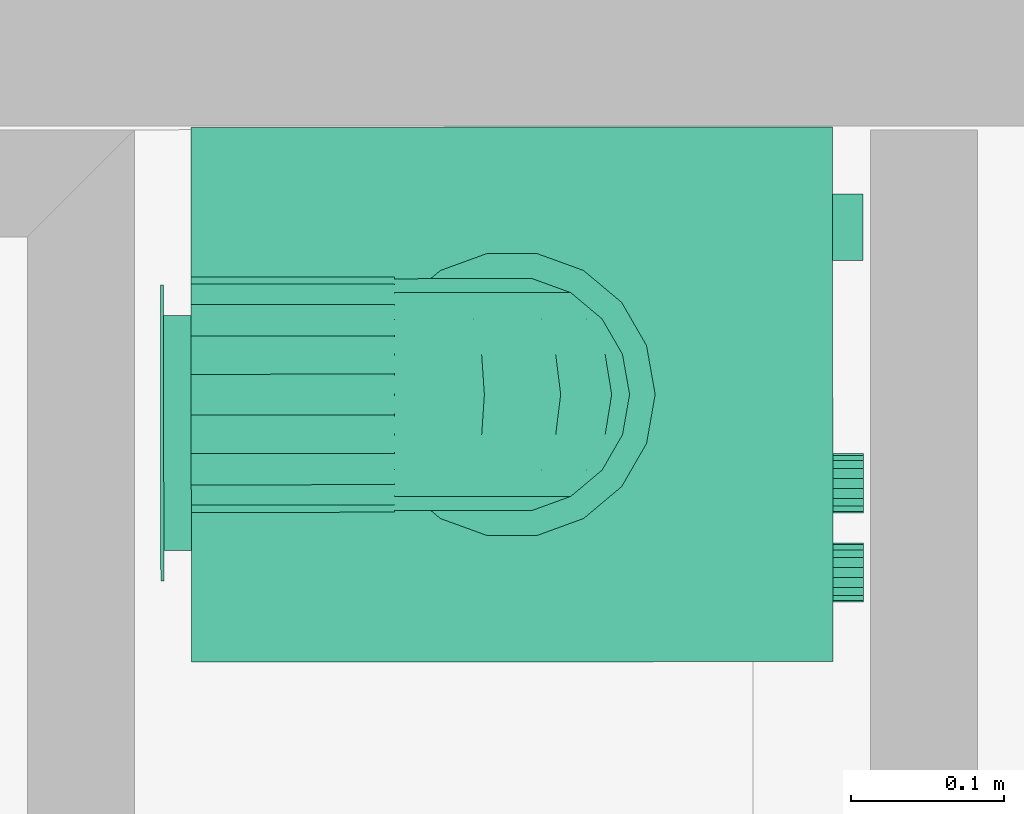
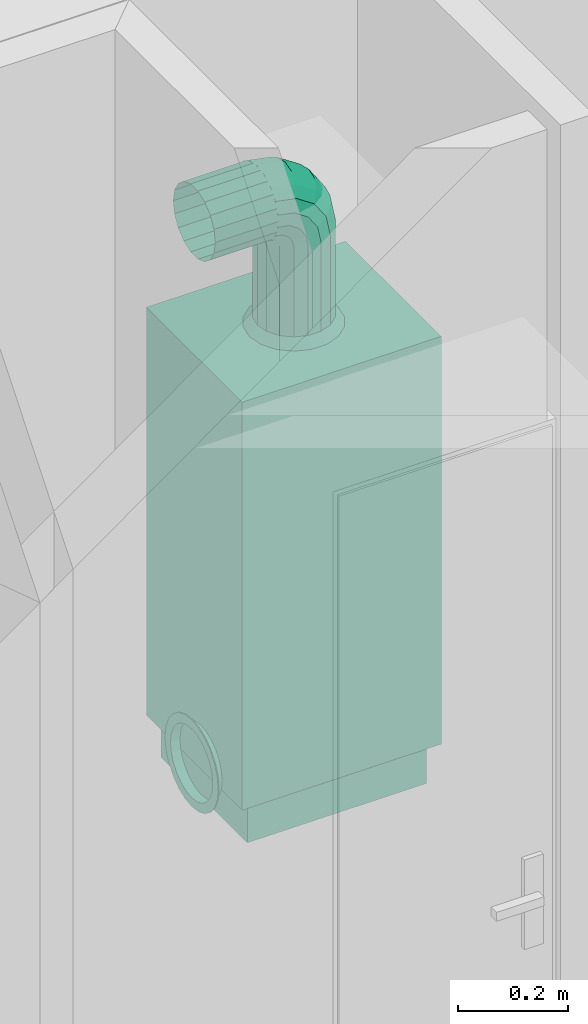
# One storey, part 110 of 164: 1 distribution element.
"""IFC2X3 building model written with IfcOpenShell, lengths in millimetres."""

from ifc_helpers import new_model, entity, si_unit, converted_unit, derived_unit, money_unit, direction, frame, origin_with_axes, place, context, subcontext, project, spatial, open_shell, faceted_brep, surface_model, source, transform, mapped, type_object, element, save


model = new_model("IFC2X3")

# Units and contexts
model_context = context("Model", 3, precision=0.01, world=origin_with_axes(), true_north=direction((0.0, 1.0)))
body_context = subcontext(model_context, "Body", "Model", "MODEL_VIEW")
ifc_project = project(units=[si_unit("LENGTHUNIT", "METRE", prefix="MILLI"), si_unit("AREAUNIT", "SQUARE_METRE"), si_unit("VOLUMEUNIT", "CUBIC_METRE"), converted_unit("PLANEANGLEUNIT", "DEGREE", entity("IfcPlaneAngleMeasure", 0.0174532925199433), si_unit("PLANEANGLEUNIT", "RADIAN"), dimensions=[0, 0, 0, 0, 0, 0, 0]), money_unit("USD"), converted_unit("TIMEUNIT", "Year", entity("IfcTimeMeasure", 31557600.0), si_unit("TIMEUNIT", "SECOND"), dimensions=[0, 0, 1, 0, 0, 0, 0]), si_unit("MASSUNIT", "GRAM", prefix="KILO"), si_unit("THERMODYNAMICTEMPERATUREUNIT", "DEGREE_CELSIUS"), si_unit("LUMINOUSINTENSITYUNIT", "LUMEN"), si_unit("ENERGYUNIT", "JOULE", prefix="MEGA"), derived_unit("THERMALCONDUCTANCEUNIT", [(si_unit("POWERUNIT", "WATT"), 1), (si_unit("LENGTHUNIT", "METRE"), -1), (si_unit("THERMODYNAMICTEMPERATUREUNIT", "KELVIN"), -1)]), derived_unit("SPECIFICHEATCAPACITYUNIT", [(si_unit("ENERGYUNIT", "JOULE"), 1), (si_unit("MASSUNIT", "GRAM", prefix="KILO"), -1), (si_unit("THERMODYNAMICTEMPERATUREUNIT", "KELVIN"), -1)]), derived_unit("MASSDENSITYUNIT", [(si_unit("MASSUNIT", "GRAM", prefix="KILO"), 1), (si_unit("VOLUMEUNIT", "CUBIC_METRE"), -1)])], contexts=[model_context])

# Site, building, storey
site_placement = place(None, origin_with_axes())
site = spatial("IfcSite", under=ifc_project, at=site_placement, Name="Site", CompositionType="ELEMENT")
building_placement = place(site_placement, origin_with_axes())
building = spatial("IfcBuilding", under=site, at=building_placement, Name="Bâtiment", CompositionType="ELEMENT")
storey_placement = place(building_placement, frame((0.0, 0.0, 5750.0), z_axis=(0.0, 0.0, 1.0), x_axis=(1.0, 0.0, 0.0)))
storey = spatial("IfcBuildingStorey", under=building, at=storey_placement, Name="Etage1", CompositionType="ELEMENT", Elevation=5750.0)

# Distribution element
distribution_element_type = type_object("IfcDistributionElementType", Name="Chaudière à gaz 27")
shared_shape = source(origin_with_axes(), body_context, "Body", "SurfaceModel", [
    surface_model("IfcShellBasedSurfaceModel", [(-200.0, 420.0, 34.90909090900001), (-200.0, 438.0, 34.90909090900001), (-180.0709335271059, 438.0, 37.53280228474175), (-180.0709335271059, 420.0, 37.53280228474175), (-219.9290664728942, 420.0, 37.53280228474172), (-219.9290664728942, 438.0, 37.53280228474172), (-161.5, 438.0, 45.22513481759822), (-161.5, 420.0, 45.22513481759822), (-238.5000000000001, 420.0, 45.22513481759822), (-238.5000000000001, 438.0, 45.22513481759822), (-145.5527778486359, 438.0, 57.46186875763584), (-145.5527778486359, 420.0, 57.46186875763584), (-254.4472221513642, 420.0, 57.46186875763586), (-254.4472221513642, 438.0, 57.46186875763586), (-133.3160439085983, 438.0, 73.409090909), (-133.3160439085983, 420.0, 73.409090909), (-266.6839560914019, 420.0, 73.40909090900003), (-266.6839560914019, 438.0, 73.40909090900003), (-125.6237113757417, 438.0, 91.9800244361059), (-125.6237113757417, 420.0, 91.9800244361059), (-274.3762886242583, 420.0, 91.98002443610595), (-274.3762886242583, 438.0, 91.98002443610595), (-123.0, 438.0, 111.909090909), (-123.0, 420.0, 111.909090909), (-277.0, 420.0, 111.909090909), (-277.0, 438.0, 111.909090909), (-125.6237113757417, 438.0, 131.8381573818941), (-125.6237113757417, 420.0, 131.8381573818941), (-274.3762886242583, 420.0, 131.8381573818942), (-274.3762886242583, 438.0, 131.8381573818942), (-133.3160439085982, 438.0, 150.409090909), (-133.3160439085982, 420.0, 150.409090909), (-266.6839560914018, 420.0, 150.4090909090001), (-266.6839560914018, 438.0, 150.4090909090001), (-145.5527778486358, 438.0, 166.3563130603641), (-145.5527778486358, 420.0, 166.3563130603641), (-254.4472221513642, 420.0, 166.3563130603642), (-254.4472221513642, 438.0, 166.3563130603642), (-161.5, 438.0, 178.5930470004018), (-161.5, 420.0, 178.5930470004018), (-238.5, 420.0, 178.5930470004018), (-238.5, 438.0, 178.5930470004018), (-180.0709335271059, 438.0, 186.2853795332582), (-180.0709335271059, 420.0, 186.2853795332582), (-219.929066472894, 420.0, 186.2853795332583), (-219.929066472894, 438.0, 186.2853795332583), (-200.0, 438.0, 188.909090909), (-200.0, 420.0, 188.909090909)], [open_shell([[[0, 1, 2, 3]], [[4, 5, 1, 0]], [[3, 2, 6, 7]], [[8, 9, 5, 4]], [[7, 6, 10, 11]], [[12, 13, 9, 8]], [[11, 10, 14, 15]], [[16, 17, 13, 12]], [[15, 14, 18, 19]], [[20, 21, 17, 16]], [[19, 18, 22, 23]], [[24, 25, 21, 20]], [[23, 22, 26, 27]], [[28, 29, 25, 24]], [[27, 26, 30, 31]], [[32, 33, 29, 28]], [[31, 30, 34, 35]], [[36, 37, 33, 32]], [[35, 34, 38, 39]], [[40, 41, 37, 36]], [[39, 38, 42, 43]], [[44, 45, 41, 40]], [[43, 42, 46, 47]], [[47, 46, 45, 44]]])]),
    faceted_brep([(-200.0, 438.0, 14.909090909), (-200.0, 440.0, 14.909090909), (-174.8945526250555, 440.0, 18.21428575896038), (-174.8945526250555, 438.0, 18.21428575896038), (-225.1054473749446, 438.0, 18.21428575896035), (-225.1054473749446, 440.0, 18.21428575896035), (-248.5000000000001, 440.0, 27.90462674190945), (-268.5893577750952, 440.0, 43.31973313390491), (-284.0044641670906, 440.0, 63.40909090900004), (-293.6948051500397, 440.0, 86.80364353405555), (-297.0000000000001, 440.0, 111.909090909), (-293.6948051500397, 440.0, 137.0145382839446), (-284.0044641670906, 440.0, 160.4090909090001), (-268.5893577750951, 440.0, 180.4984486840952), (-248.5, 440.0, 195.9135550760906), (-225.1054473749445, 440.0, 205.6038960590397), (-199.9999999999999, 440.0, 208.909090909), (-174.8945526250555, 440.0, 205.6038960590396), (-151.5, 440.0, 195.9135550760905), (-131.4106422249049, 440.0, 180.4984486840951), (-115.9955358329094, 440.0, 160.409090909), (-106.3051948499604, 440.0, 137.0145382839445), (-103.0, 440.0, 111.909090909), (-106.3051948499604, 440.0, 86.80364353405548), (-115.9955358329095, 440.0, 63.40909090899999), (-131.4106422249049, 440.0, 43.31973313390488), (-151.5, 440.0, 27.90462674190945), (-200.0, 440.0, 34.90909090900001), (-180.0709335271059, 440.0, 37.53280228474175), (-161.5, 440.0, 45.22513481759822), (-145.5527778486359, 440.0, 57.46186875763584), (-133.3160439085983, 440.0, 73.409090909), (-125.6237113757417, 440.0, 91.9800244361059), (-123.0, 440.0, 111.909090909), (-125.6237113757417, 440.0, 131.8381573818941), (-133.3160439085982, 440.0, 150.409090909), (-145.5527778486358, 440.0, 166.3563130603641), (-161.5, 440.0, 178.5930470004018), (-180.0709335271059, 440.0, 186.2853795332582), (-200.0, 440.0, 188.909090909), (-219.929066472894, 440.0, 186.2853795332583), (-238.5, 440.0, 178.5930470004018), (-254.4472221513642, 440.0, 166.3563130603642), (-266.6839560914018, 440.0, 150.4090909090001), (-274.3762886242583, 440.0, 131.8381573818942), (-277.0, 440.0, 111.909090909), (-274.3762886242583, 440.0, 91.98002443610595), (-266.6839560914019, 440.0, 73.40909090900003), (-254.4472221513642, 440.0, 57.46186875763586), (-238.5000000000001, 440.0, 45.22513481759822), (-219.9290664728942, 440.0, 37.53280228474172), (-151.5, 438.0, 27.90462674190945), (-131.4106422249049, 438.0, 43.31973313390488), (-115.9955358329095, 438.0, 63.40909090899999), (-106.3051948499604, 438.0, 86.80364353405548), (-103.0, 438.0, 111.909090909), (-106.3051948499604, 438.0, 137.0145382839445), (-115.9955358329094, 438.0, 160.409090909), (-131.4106422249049, 438.0, 180.4984486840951), (-151.5, 438.0, 195.9135550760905), (-174.8945526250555, 438.0, 205.6038960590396), (-199.9999999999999, 438.0, 208.909090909), (-225.1054473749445, 438.0, 205.6038960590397), (-248.5, 438.0, 195.9135550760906), (-268.5893577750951, 438.0, 180.4984486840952), (-284.0044641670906, 438.0, 160.4090909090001), (-293.6948051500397, 438.0, 137.0145382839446), (-297.0000000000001, 438.0, 111.909090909), (-293.6948051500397, 438.0, 86.80364353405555), (-284.0044641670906, 438.0, 63.40909090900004), (-268.5893577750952, 438.0, 43.31973313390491), (-248.5000000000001, 438.0, 27.90462674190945), (-200.0, 438.0, 34.90909090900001), (-219.9290664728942, 438.0, 37.53280228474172), (-238.5000000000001, 438.0, 45.22513481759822), (-254.4472221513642, 438.0, 57.46186875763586), (-266.6839560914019, 438.0, 73.40909090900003), (-274.3762886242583, 438.0, 91.98002443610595), (-277.0, 438.0, 111.909090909), (-274.3762886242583, 438.0, 131.8381573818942), (-266.6839560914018, 438.0, 150.4090909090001), (-254.4472221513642, 438.0, 166.3563130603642), (-238.5, 438.0, 178.5930470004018), (-219.929066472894, 438.0, 186.2853795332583), (-200.0, 438.0, 188.909090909), (-180.0709335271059, 438.0, 186.2853795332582), (-161.5, 438.0, 178.5930470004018), (-145.5527778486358, 438.0, 166.3563130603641), (-133.3160439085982, 438.0, 150.409090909), (-125.6237113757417, 438.0, 131.8381573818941), (-123.0, 438.0, 111.909090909), (-125.6237113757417, 438.0, 91.9800244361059), (-133.3160439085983, 438.0, 73.409090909), (-145.5527778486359, 438.0, 57.46186875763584), (-161.5, 438.0, 45.22513481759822), (-180.0709335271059, 438.0, 37.53280228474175)], [[[0, 1, 2, 3]], [[4, 5, 1, 0]], [[1, 5, 6, 7, 8, 9, 10, 11, 12, 13, 14, 15, 16, 17, 18, 19, 20, 21, 22, 23, 24, 25, 26, 2], [27, 28, 29, 30, 31, 32, 33, 34, 35, 36, 37, 38, 39, 40, 41, 42, 43, 44, 45, 46, 47, 48, 49, 50]], [[3, 2, 26, 51]], [[0, 3, 51, 52, 53, 54, 55, 56, 57, 58, 59, 60, 61, 62, 63, 64, 65, 66, 67, 68, 69, 70, 71, 4], [72, 73, 74, 75, 76, 77, 78, 79, 80, 81, 82, 83, 84, 85, 86, 87, 88, 89, 90, 91, 92, 93, 94, 95]], [[71, 6, 5, 4]], [[70, 7, 6, 71]], [[69, 8, 7, 70]], [[68, 9, 8, 69]], [[67, 10, 9, 68]], [[66, 11, 10, 67]], [[65, 12, 11, 66]], [[64, 13, 12, 65]], [[63, 14, 13, 64]], [[62, 15, 14, 63]], [[61, 16, 15, 62]], [[60, 17, 16, 61]], [[59, 18, 17, 60]], [[58, 19, 18, 59]], [[57, 20, 19, 58]], [[56, 21, 20, 57]], [[55, 22, 21, 56]], [[54, 23, 22, 55]], [[53, 24, 23, 54]], [[52, 25, 24, 53]], [[51, 26, 25, 52]], [[95, 28, 27, 72]], [[94, 29, 28, 95]], [[93, 30, 29, 94]], [[92, 31, 30, 93]], [[91, 32, 31, 92]], [[90, 33, 32, 91]], [[89, 34, 33, 90]], [[88, 35, 34, 89]], [[87, 36, 35, 88]], [[86, 37, 36, 87]], [[85, 38, 37, 86]], [[84, 39, 38, 85]], [[83, 40, 39, 84]], [[82, 41, 40, 83]], [[81, 42, 41, 82]], [[80, 43, 42, 81]], [[79, 44, 43, 80]], [[78, 45, 44, 79]], [[77, 46, 45, 78]], [[76, 47, 46, 77]], [[75, 48, 47, 76]], [[74, 49, 48, 75]], [[73, 50, 49, 74]], [[72, 27, 50, 73]]]),
    faceted_brep([(-332.5, 21.0, 0.0), (-332.5, 399.0, 0.0), (-17.5, 399.0, 0.0), (-17.5, 21.0, 0.0), (-332.5, 21.0, 90.9090909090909), (-332.5, 399.0, 90.9090909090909), (-17.5, 399.0, 90.9090909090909), (-17.5, 21.0, 90.9090909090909)], [[[0, 1, 2, 3]], [[0, 4, 5, 1]], [[1, 5, 6, 2]], [[2, 6, 7, 3]], [[3, 7, 4, 0]], [[7, 6, 5, 4]]]),
    faceted_brep([(0.0, 420.0, 90.9090909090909), (-350.0, 420.0, 90.90909090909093), (-349.9999999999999, 420.0, 1000.0), (0.0, 420.0, 1000.0), (0.0, 0.0, 90.9090909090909), (-350.0, 0.0, 90.90909090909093), (-349.9999999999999, 0.0, 818.1818181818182), (-349.9999999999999, 21.0, 818.1818181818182), (-349.9999999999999, 21.0, 1000.0), (0.0, 21.0, 1000.0), (0.0, 21.0, 818.1818181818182), (0.0, 0.0, 818.1818181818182)], [[[0, 1, 2, 3]], [[4, 5, 1, 0]], [[1, 5, 6, 7, 8, 2]], [[3, 2, 8, 9]], [[0, 3, 9, 10, 11, 4]], [[11, 6, 5, 4]], [[10, 7, 6, 11]], [[9, 8, 7, 10]]]),
    faceted_brep([(-350.0, 0.0, 818.1818181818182), (-350.0, 21.0, 818.1818181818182), (0.0, 21.0, 818.1818181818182), (0.0, 0.0, 818.1818181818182), (-350.0, 0.0, 1000.0), (-350.0, 21.0, 1000.0), (0.0, 21.0, 1000.0), (0.0, 0.0, 1000.0)], [[[0, 1, 2, 3]], [[0, 4, 5, 1]], [[1, 5, 6, 2]], [[2, 6, 7, 3]], [[3, 7, 4, 0]], [[7, 6, 5, 4]]]),
    faceted_brep([(-251.6051342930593, 0.0, 902.4405174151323), (-252.7777777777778, 0.0, 909.0909090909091), (-251.6051342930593, 0.0, 915.741300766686), (-248.2286419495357, 0.0, 921.5895570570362), (-243.0555555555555, 0.0, 925.9302919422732), (-236.709825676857, 0.0, 928.2399487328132), (-229.9568409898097, 0.0, 928.2399487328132), (-223.6111111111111, 0.0, 925.9302919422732), (-218.438024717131, 0.0, 921.5895570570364), (-215.0615323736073, 0.0, 915.741300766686), (-213.8888888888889, 0.0, 909.0909090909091), (-215.0615323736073, 0.0, 902.4405174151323), (-218.438024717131, 0.0, 896.5922611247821), (-223.6111111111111, 0.0, 892.2515262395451), (-229.9568409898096, 0.0, 889.9418694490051), (-236.709825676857, 0.0, 889.9418694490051), (-243.0555555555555, 0.0, 892.2515262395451), (-248.2286419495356, 0.0, 896.592261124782), (-251.6051342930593, -19.99999999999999, 902.4405174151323), (-252.7777777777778, -19.99999999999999, 909.0909090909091), (-251.6051342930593, -19.99999999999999, 915.741300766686), (-248.2286419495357, -19.99999999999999, 921.5895570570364), (-243.0555555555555, -19.99999999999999, 925.9302919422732), (-236.709825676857, -19.99999999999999, 928.2399487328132), (-229.9568409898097, -19.99999999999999, 928.2399487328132), (-223.6111111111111, -19.99999999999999, 925.9302919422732), (-218.438024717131, -19.99999999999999, 921.5895570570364), (-215.0615323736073, -19.99999999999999, 915.741300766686), (-213.8888888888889, -19.99999999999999, 909.0909090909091), (-215.0615323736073, -19.99999999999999, 902.4405174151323), (-218.438024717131, -19.99999999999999, 896.5922611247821), (-223.6111111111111, -19.99999999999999, 892.2515262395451), (-229.9568409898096, -19.99999999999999, 889.9418694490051), (-236.709825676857, -19.99999999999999, 889.9418694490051), (-243.0555555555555, -19.99999999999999, 892.2515262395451), (-248.2286419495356, -19.99999999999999, 896.592261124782)], [[[0, 1, 2, 3, 4, 5, 6, 7, 8, 9, 10, 11, 12, 13, 14, 15, 16, 17]], [[0, 18, 19, 1]], [[1, 19, 20, 2]], [[2, 20, 21, 3]], [[3, 21, 22, 4]], [[4, 22, 23, 5]], [[5, 23, 24, 6]], [[6, 24, 25, 7]], [[7, 25, 26, 8]], [[8, 26, 27, 9]], [[9, 27, 28, 10]], [[10, 28, 29, 11]], [[11, 29, 30, 12]], [[12, 30, 31, 13]], [[13, 31, 32, 14]], [[14, 32, 33, 15]], [[15, 33, 34, 16]], [[16, 34, 35, 17]], [[17, 35, 18, 0]], [[18, 35, 34, 33, 32, 31, 30, 29, 28, 27, 26, 25, 24, 23, 22, 21, 20, 19]]]),
    faceted_brep([(-309.9384676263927, 0.0, 902.4405174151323), (-311.1111111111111, 0.0, 909.0909090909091), (-309.9384676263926, 0.0, 915.741300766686), (-306.561975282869, 0.0, 921.5895570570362), (-301.3888888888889, 0.0, 925.9302919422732), (-295.0431590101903, 0.0, 928.2399487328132), (-288.290174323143, 0.0, 928.2399487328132), (-281.9444444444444, 0.0, 925.9302919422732), (-276.7713580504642, 0.0, 921.5895570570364), (-273.3948657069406, 0.0, 915.741300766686), (-272.2222222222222, 0.0, 909.0909090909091), (-273.3948657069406, 0.0, 902.4405174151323), (-276.7713580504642, 0.0, 896.5922611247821), (-281.9444444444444, 0.0, 892.2515262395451), (-288.290174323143, 0.0, 889.9418694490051), (-295.0431590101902, 0.0, 889.9418694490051), (-301.3888888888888, 0.0, 892.2515262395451), (-306.561975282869, 0.0, 896.592261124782), (-309.9384676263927, -19.99999999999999, 902.4405174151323), (-311.1111111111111, -19.99999999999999, 909.0909090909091), (-309.9384676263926, -19.99999999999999, 915.741300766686), (-306.561975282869, -19.99999999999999, 921.5895570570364), (-301.3888888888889, -19.99999999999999, 925.9302919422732), (-295.0431590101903, -19.99999999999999, 928.2399487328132), (-288.290174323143, -19.99999999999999, 928.2399487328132), (-281.9444444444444, -19.99999999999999, 925.9302919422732), (-276.7713580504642, -19.99999999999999, 921.5895570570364), (-273.3948657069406, -19.99999999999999, 915.741300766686), (-272.2222222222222, -19.99999999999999, 909.0909090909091), (-273.3948657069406, -19.99999999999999, 902.4405174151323), (-276.7713580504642, -19.99999999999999, 896.5922611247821), (-281.9444444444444, -19.99999999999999, 892.2515262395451), (-288.290174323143, -19.99999999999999, 889.9418694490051), (-295.0431590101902, -19.99999999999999, 889.9418694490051), (-301.3888888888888, -19.99999999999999, 892.2515262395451), (-306.561975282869, -19.99999999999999, 896.592261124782)], [[[0, 1, 2, 3, 4, 5, 6, 7, 8, 9, 10, 11, 12, 13, 14, 15, 16, 17]], [[0, 18, 19, 1]], [[1, 19, 20, 2]], [[2, 20, 21, 3]], [[3, 21, 22, 4]], [[4, 22, 23, 5]], [[5, 23, 24, 6]], [[6, 24, 25, 7]], [[7, 25, 26, 8]], [[8, 26, 27, 9]], [[9, 27, 28, 10]], [[10, 28, 29, 11]], [[11, 29, 30, 12]], [[12, 30, 31, 13]], [[13, 31, 32, 14]], [[14, 32, 33, 15]], [[15, 33, 34, 16]], [[16, 34, 35, 17]], [[17, 35, 18, 0]], [[18, 35, 34, 33, 32, 31, 30, 29, 28, 27, 26, 25, 24, 23, 22, 21, 20, 19]]]),
    faceted_brep([(-87.5, 0.0, 878.7878787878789), (-87.5, 0.0, 939.3939393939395), (-43.75, 0.0, 939.3939393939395), (-43.75, 0.0, 878.7878787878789), (-87.5, -20.0, 878.7878787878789), (-87.5, -19.99999999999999, 939.3939393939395), (-43.75, -19.99999999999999, 939.3939393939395), (-43.75, -20.0, 878.7878787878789)], [[[0, 1, 2, 3]], [[0, 4, 5, 1]], [[1, 5, 6, 2]], [[2, 6, 7, 3]], [[3, 7, 4, 0]], [[7, 6, 5, 4]]]),
    surface_model("IfcShellBasedSurfaceModel", [(-148.6644489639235, 282.356331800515, 1220.0), (-148.6644489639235, 282.356331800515, 1020.0), (-175.0, 287.0, 1020.0), (-175.0, 287.0, 1220.0), (-125.5053540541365, 268.9854221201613, 1220.0), (-125.5053540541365, 268.9854221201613, 1020.0), (-142.9356115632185, 298.0961831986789, 1000.0), (-175.0, 303.7499999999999, 1000.0), (-201.3355510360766, 282.356331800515, 1020.0), (-201.3355510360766, 282.356331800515, 1220.0), (-108.3160439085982, 248.5, 1220.0), (-108.3160439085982, 248.5, 1020.0), (-114.7386615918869, 281.8166665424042, 1000.0), (-207.0643884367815, 298.0961831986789, 1000.0), (-224.4946459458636, 268.9854221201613, 1020.0), (-224.4946459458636, 268.9854221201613, 1220.0), (-99.16980301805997, 223.3709096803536, 1220.0), (-99.16980301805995, 223.3709096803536, 1020.0), (-93.81011839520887, 256.8749999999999, 1000.0), (-235.2613384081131, 281.8166665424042, 1000.0), (-241.6839560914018, 248.4999999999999, 1020.0), (-241.6839560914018, 248.4999999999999, 1220.0), (-99.16980301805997, 196.6290903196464, 1220.0), (-99.16980301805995, 196.6290903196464, 1020.0), (-82.6742731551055, 226.2795166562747, 1000.0), (-256.1898816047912, 256.8749999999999, 1000.0), (-250.83019698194, 223.3709096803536, 1020.0), (-250.8301969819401, 223.3709096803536, 1220.0), (-108.3160439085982, 171.5, 1220.0), (-108.3160439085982, 171.5, 1020.0), (-82.67427315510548, 193.7204833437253, 1000.0), (-267.3257268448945, 226.2795166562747, 1000.0), (-250.83019698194, 196.6290903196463, 1020.0), (-250.83019698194, 196.6290903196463, 1220.0), (-125.5053540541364, 151.0145778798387, 1220.0), (-125.5053540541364, 151.0145778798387, 1020.0), (-93.81011839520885, 163.125, 1000.0), (-267.3257268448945, 193.7204833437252, 1000.0), (-241.6839560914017, 171.4999999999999, 1020.0), (-241.6839560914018, 171.4999999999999, 1220.0), (-148.6644489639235, 137.643668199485, 1220.0), (-148.6644489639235, 137.643668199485, 1020.0), (-114.7386615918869, 138.1833334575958, 1000.0), (-256.1898816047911, 163.1249999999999, 1000.0), (-224.4946459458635, 151.0145778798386, 1020.0), (-224.4946459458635, 151.0145778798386, 1220.0), (-175.0, 133.0, 1220.0), (-175.0, 133.0, 1020.0), (-142.9356115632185, 121.9038168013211, 1000.0), (-235.261338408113, 138.1833334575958, 1000.0), (-201.3355510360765, 137.643668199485, 1020.0), (-201.3355510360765, 137.643668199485, 1220.0), (-175.0, 116.25, 1000.0), (-207.0643884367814, 121.9038168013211, 1000.0)], [open_shell([[[0, 1, 2, 3]], [[4, 5, 1, 0]], [[1, 6, 7, 2]], [[3, 2, 8, 9]], [[10, 11, 5, 4]], [[5, 12, 6, 1]], [[2, 7, 13, 8]], [[9, 8, 14, 15]], [[16, 17, 11, 10]], [[11, 18, 12, 5]], [[8, 13, 19, 14]], [[15, 14, 20, 21]], [[22, 23, 17, 16]], [[17, 24, 18, 11]], [[14, 19, 25, 20]], [[21, 20, 26, 27]], [[28, 29, 23, 22]], [[23, 30, 24, 17]], [[20, 25, 31, 26]], [[27, 26, 32, 33]], [[34, 35, 29, 28]], [[29, 36, 30, 23]], [[26, 31, 37, 32]], [[33, 32, 38, 39]], [[40, 41, 35, 34]], [[35, 42, 36, 29]], [[32, 37, 43, 38]], [[39, 38, 44, 45]], [[46, 47, 41, 40]], [[41, 48, 42, 35]], [[38, 43, 49, 44]], [[45, 44, 50, 51]], [[51, 50, 47, 46]], [[47, 52, 48, 41]], [[44, 49, 53, 50]], [[50, 53, 52, 47]]])]),
    faceted_brep([(-250.83019698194, 196.6290903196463, 1220.0), (-250.83019698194, 203.5081662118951, 1254.583449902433), (-250.83019698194, 228.2143857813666, 1244.349798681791), (-250.83019698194, 223.3709096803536, 1220.0), (-241.6839560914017, 171.4999999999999, 1220.0), (-241.6839560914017, 180.2919139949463, 1264.199936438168), (-250.83019698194, 223.0981169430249, 1283.901883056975), (-250.83019698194, 242.0074387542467, 1264.992561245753), (-241.6839560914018, 248.4999999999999, 1220.0), (-241.6839560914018, 251.4306379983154, 1234.733312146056), (-224.4946459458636, 268.9854221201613, 1220.0), (-201.3355510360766, 282.356331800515, 1220.0), (-175.0, 287.0, 1220.0), (-148.6644489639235, 282.356331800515, 1220.0), (-125.5053540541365, 268.9854221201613, 1220.0), (-108.3160439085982, 248.5, 1220.0), (-99.16980301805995, 223.3709096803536, 1220.0), (-99.16980301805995, 196.6290903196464, 1220.0), (-108.3160439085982, 171.5, 1220.0), (-125.5053540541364, 151.0145778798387, 1220.0), (-148.6644489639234, 137.643668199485, 1220.0), (-175.0, 132.9999999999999, 1220.0), (-201.3355510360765, 137.643668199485, 1220.0), (-224.4946459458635, 151.0145778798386, 1220.0), (-224.4946459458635, 161.3658517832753, 1272.039368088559), (-241.6839560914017, 205.3291667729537, 1301.670833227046), (-250.83019698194, 252.4165500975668, 1303.491833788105), (-250.83019698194, 262.6502013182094, 1278.785614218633), (-241.6839560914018, 259.7763889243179, 1247.223611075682), (-224.4946459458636, 270.3567002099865, 1226.893880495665), (-201.3355510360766, 282.7098099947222, 1221.777054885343), (-148.6644489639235, 282.7098099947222, 1221.777054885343), (-125.5053540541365, 270.3567002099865, 1226.893880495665), (-108.3160439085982, 251.4306379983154, 1234.733312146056), (-99.16980301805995, 228.2143857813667, 1244.349798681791), (-99.16980301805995, 203.5081662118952, 1254.583449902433), (-108.3160439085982, 180.2919139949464, 1264.199936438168), (-125.5053540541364, 161.3658517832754, 1272.039368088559), (-148.6644489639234, 149.0127419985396, 1277.15619369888), (-175.0, 144.7225519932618, 1278.933248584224), (-201.3355510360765, 149.0127419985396, 1277.15619369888), (-224.4946459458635, 190.8437858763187, 1316.156214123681), (-241.6839560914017, 242.8000635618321, 1326.708086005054), (-250.83019698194, 287.0000000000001, 1310.370909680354), (-250.83019698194, 287.0000000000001, 1283.629090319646), (-241.6839560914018, 272.266687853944, 1255.569362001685), (-224.4946459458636, 274.2617698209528, 1232.738230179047), (-201.3355510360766, 283.7164307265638, 1223.283569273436), (-148.6644489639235, 283.7164307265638, 1223.283569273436), (-125.5053540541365, 274.2617698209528, 1232.738230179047), (-108.3160439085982, 259.7763889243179, 1247.223611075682), (-99.16980301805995, 242.0074387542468, 1264.992561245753), (-99.16980301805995, 223.098116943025, 1283.901883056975), (-108.3160439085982, 205.3291667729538, 1301.670833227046), (-125.5053540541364, 190.8437858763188, 1316.156214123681), (-148.6644489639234, 181.3891249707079, 1325.610875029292), (-175.0, 178.1055556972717, 1328.894444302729), (-201.3355510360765, 181.3891249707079, 1325.610875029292), (-224.4946459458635, 234.9606319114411, 1345.634148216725), (-241.6839560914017, 287.0000000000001, 1335.5), (-241.6839560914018, 287.0, 1258.5), (-224.4946459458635, 287.0000000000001, 1355.985422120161), (-201.3355510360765, 287.0000000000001, 1369.356331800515), (-175.0, 287.0000000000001, 1374.0), (-148.6644489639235, 287.0000000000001, 1369.356331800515), (-125.5053540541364, 287.0000000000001, 1355.985422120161), (-108.3160439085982, 287.0000000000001, 1335.5), (-99.16980301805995, 287.0000000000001, 1310.370909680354), (-99.16980301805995, 287.0000000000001, 1283.629090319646), (-108.3160439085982, 287.0, 1258.5), (-125.5053540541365, 287.0, 1238.014577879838), (-148.6644489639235, 287.0, 1224.643668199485), (-201.3355510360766, 287.0, 1224.643668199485), (-224.4946459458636, 287.0, 1238.014577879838), (-224.4946459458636, 280.1061195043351, 1236.643299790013), (-201.3355510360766, 285.2229451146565, 1224.290190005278), (-148.6644489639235, 285.2229451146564, 1224.290190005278), (-125.5053540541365, 280.1061195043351, 1236.643299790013), (-108.3160439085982, 272.266687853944, 1255.569362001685), (-99.16980301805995, 262.6502013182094, 1278.785614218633), (-99.16980301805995, 252.4165500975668, 1303.491833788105), (-108.3160439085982, 242.8000635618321, 1326.708086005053), (-125.5053540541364, 234.9606319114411, 1345.634148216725), (-148.6644489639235, 229.8438063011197, 1357.98725800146), (-175.0, 228.0667514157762, 1362.277448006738), (-201.3355510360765, 229.8438063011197, 1357.98725800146)], [[[0, 1, 2, 3]], [[1, 0, 4, 5]], [[1, 6, 7, 2]], [[8, 3, 2, 9]], [[4, 0, 3, 8, 10, 11, 12, 13, 14, 15, 16, 17, 18, 19, 20, 21, 22, 23]], [[5, 4, 23, 24]], [[6, 1, 5, 25]], [[7, 6, 26, 27]], [[2, 7, 28, 9]], [[29, 10, 8, 9]], [[10, 29, 30, 11]], [[11, 30, 12]], [[31, 13, 12]], [[13, 31, 32, 14]], [[33, 15, 14, 32]], [[15, 33, 34, 16]], [[35, 17, 16, 34]], [[18, 17, 35, 36]], [[37, 19, 18, 36]], [[20, 19, 37, 38]], [[39, 21, 20, 38]], [[22, 21, 39, 40]], [[24, 23, 22, 40]], [[25, 5, 24, 41]], [[6, 25, 42, 26]], [[27, 26, 43, 44]], [[45, 28, 7, 27]], [[46, 29, 9, 28]], [[29, 46, 47, 30]], [[30, 47, 12]], [[48, 31, 12]], [[31, 48, 49, 32]], [[32, 49, 50, 33]], [[34, 33, 50, 51]], [[52, 35, 34, 51]], [[35, 52, 53, 36]], [[54, 37, 36, 53]], [[38, 37, 54, 55]], [[56, 39, 38, 55]], [[57, 40, 39, 56]], [[41, 24, 40, 57]], [[42, 25, 41, 58]], [[26, 42, 59, 43]], [[60, 44, 43, 59, 61, 62, 63, 64, 65, 66, 67, 68, 69, 70, 71, 12, 72, 73]], [[45, 27, 44, 60]], [[28, 45, 74, 46]], [[46, 74, 75, 47]], [[47, 75, 12]], [[76, 48, 12]], [[48, 76, 77, 49]], [[49, 77, 78, 50]], [[50, 78, 79, 51]], [[52, 51, 79, 80]], [[53, 52, 80, 81]], [[82, 54, 53, 81]], [[55, 54, 82, 83]], [[56, 55, 83, 84]], [[85, 57, 56, 84]], [[58, 41, 57, 85]], [[59, 42, 58, 61]], [[61, 58, 85, 62]], [[62, 85, 84, 63]], [[84, 83, 64, 63]], [[82, 65, 64, 83]], [[65, 82, 81, 66]], [[81, 80, 67, 66]], [[80, 79, 68, 67]], [[79, 78, 69, 68]], [[77, 70, 69, 78]], [[77, 76, 71, 70]], [[76, 12, 71]], [[75, 72, 12]], [[74, 73, 72, 75]], [[45, 60, 73, 74]]]),
    surface_model("IfcShellBasedSurfaceModel", [(-102.6436681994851, 420.0, 1323.335551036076), (-102.643668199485, 287.0, 1323.335551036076), (-97.99999999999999, 287.0, 1297.0), (-98.0, 420.0, 1297.0), (-116.0145778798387, 420.0, 1346.494645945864), (-116.0145778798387, 287.0, 1346.494645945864), (-102.643668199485, 287.0, 1270.664448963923), (-102.643668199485, 420.0, 1270.664448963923), (-136.5, 420.0, 1363.683956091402), (-136.5, 287.0, 1363.683956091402), (-116.0145778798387, 287.0, 1247.505354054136), (-116.0145778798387, 420.0, 1247.505354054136), (-161.6290903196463, 420.0, 1372.83019698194), (-161.6290903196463, 287.0, 1372.83019698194), (-136.5, 287.0, 1230.316043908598), (-136.5, 420.0, 1230.316043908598), (-188.3709096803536, 420.0, 1372.83019698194), (-188.3709096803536, 287.0, 1372.83019698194), (-161.6290903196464, 287.0, 1221.16980301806), (-161.6290903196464, 420.0, 1221.16980301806), (-213.5, 420.0, 1363.683956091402), (-213.5, 287.0, 1363.683956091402), (-188.3709096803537, 287.0, 1221.16980301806), (-188.3709096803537, 420.0, 1221.16980301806), (-233.9854221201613, 420.0, 1346.494645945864), (-233.9854221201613, 287.0, 1346.494645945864), (-213.5, 287.0, 1230.316043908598), (-213.5000000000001, 420.0, 1230.316043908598), (-247.356331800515, 420.0, 1323.335551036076), (-247.3563318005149, 287.0, 1323.335551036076), (-233.9854221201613, 287.0, 1247.505354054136), (-233.9854221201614, 420.0, 1247.505354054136), (-252.0, 420.0, 1297.0), (-252.0, 287.0, 1297.0), (-247.356331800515, 287.0, 1270.664448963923), (-247.356331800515, 420.0, 1270.664448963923)], [open_shell([[[0, 1, 2, 3]], [[4, 5, 1, 0]], [[3, 2, 6, 7]], [[8, 9, 5, 4]], [[7, 6, 10, 11]], [[12, 13, 9, 8]], [[11, 10, 14, 15]], [[16, 17, 13, 12]], [[15, 14, 18, 19]], [[20, 21, 17, 16]], [[19, 18, 22, 23]], [[24, 25, 21, 20]], [[23, 22, 26, 27]], [[28, 29, 25, 24]], [[27, 26, 30, 31]], [[32, 33, 29, 28]], [[31, 30, 34, 35]], [[35, 34, 33, 32]]])]),
])
distribution_element_placement = place(storey_placement, frame((2227534.368385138, -637513.847425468, 1000.0), z_axis=(0.0, 0.0, 1.0), x_axis=(-0.0006263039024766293, 0.9999998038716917, 0.0)))
element("IfcDistributionElement", 1, at=distribution_element_placement, inside=storey, type_object=distribution_element_type, Name="Obj.-003", context=body_context, shape_type="MappedRepresentation", body=[
    mapped(shared_shape, transform((0.0, 0.0, 0.0))),
])

save(model, "model.ifc")
